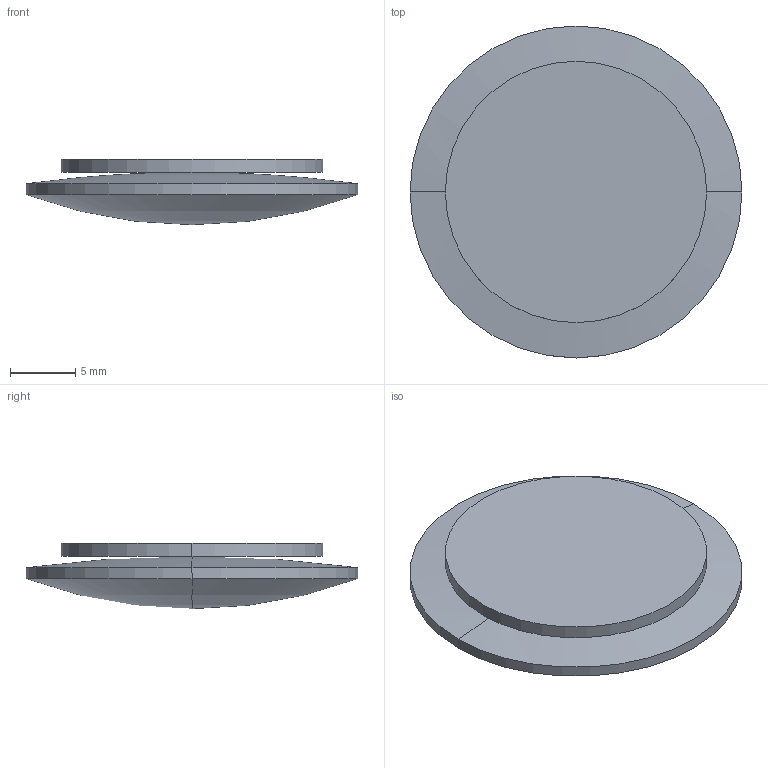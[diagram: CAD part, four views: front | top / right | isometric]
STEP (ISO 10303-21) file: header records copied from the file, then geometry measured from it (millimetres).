
FILE_DESCRIPTION(('STEP AP214'),'1');
FILE_NAME('LLZ-25-60.STEP','2020-03-09T17:42:29',(' '),(' '),'Spatial InterOp 3D',' ',' ');
FILE_SCHEMA(('AUTOMOTIVE_DESIGN { 1 0 10303 214 1 1 1 1 }'));
Length unit declared in the file: millimetre
Products named in the file (1): 1
Bounding box: 25.4 x 25.4 x 5 mm (x, y, z)
Volume: 1547.6 mm3; surface area: 1790.7 mm2
Topology: 2 solids, 2 shells, 10 faces, 20 edges, 10 vertices
Faces by surface type: sphere 4, cylinder 4, plane 2
Entity records: 255 total; most frequent: DIRECTION 52, CARTESIAN_POINT 38, ORIENTED_EDGE 32, AXIS2_PLACEMENT_3D 24, EDGE_CURVE 16, CIRCLE 12, ADVANCED_FACE 10, FACE_OUTER_BOUND 10
